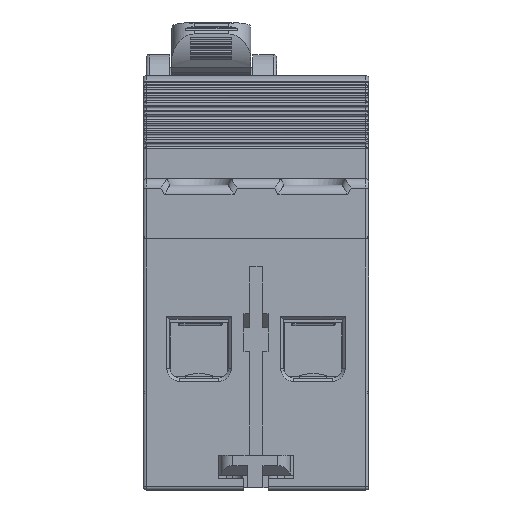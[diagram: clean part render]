
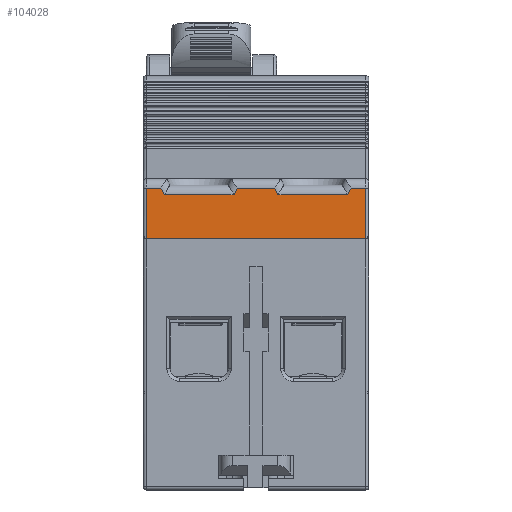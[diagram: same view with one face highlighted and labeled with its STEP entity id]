
A CAD part, front view. The second image highlights one B-rep face of the part: STEP entity #104028.
In plain terms, the highlighted planar face has unit normal (0, -1, 0) as drawn and (1, 0, 0) by its records, which use the part's own axes.
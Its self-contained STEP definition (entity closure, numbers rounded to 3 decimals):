
#470 = CARTESIAN_POINT ( 'NONE',  ( 418.449, 58.043, 21.624 ) ) ;
#856 = CARTESIAN_POINT ( 'NONE',  ( 418.449, 55.321, 5.225 ) ) ;
#1548 = ORIENTED_EDGE ( 'NONE', *, *, #52059, .F. ) ;
#1580 = CARTESIAN_POINT ( 'NONE',  ( 418.449, 76.542, 20.624 ) ) ;
#4399 = VERTEX_POINT ( 'NONE', #13987 ) ;
#4492 = VERTEX_POINT ( 'NONE', #99792 ) ;
#5277 = EDGE_CURVE ( 'NONE', #40165, #43157, #32171, .T. ) ;
#5475 = VECTOR ( 'NONE', #68914, 1000. ) ;
#7340 = CARTESIAN_POINT ( 'NONE',  ( 418.449, 70.097, 21.624 ) ) ;
#8014 = CARTESIAN_POINT ( 'NONE',  ( 418.449, 90.419, 13.624 ) ) ;
#9197 = VECTOR ( 'NONE', #91395, 1000. ) ;
#13014 = DIRECTION ( 'NONE',  ( 0., 0., -1. ) ) ;
#13358 = VECTOR ( 'NONE', #75000, 1000. ) ;
#13712 = VERTEX_POINT ( 'NONE', #92277 ) ;
#13756 = DIRECTION ( 'NONE',  ( 0., -0.447, -0.894 ) ) ;
#13987 = CARTESIAN_POINT ( 'NONE',  ( 418.449, 70.097, 21.624 ) ) ;
#14042 = CARTESIAN_POINT ( 'NONE',  ( 418.449, 76.542, 20.624 ) ) ;
#14465 = LINE ( 'NONE', #47627, #74496 ) ;
#16347 = ORIENTED_EDGE ( 'NONE', *, *, #16727, .T. ) ;
#16727 = EDGE_CURVE ( 'NONE', #4399, #92641, #92529, .T. ) ;
#17964 = CARTESIAN_POINT ( 'NONE',  ( 418.449, 69.597, 20.624 ) ) ;
#18110 = DIRECTION ( 'NONE',  ( 0., 1., 0. ) ) ;
#22083 = ORIENTED_EDGE ( 'NONE', *, *, #79684, .F. ) ;
#23057 = ORIENTED_EDGE ( 'NONE', *, *, #52709, .F. ) ;
#25624 = EDGE_CURVE ( 'NONE', #13712, #43157, #88222, .T. ) ;
#25826 = ORIENTED_EDGE ( 'NONE', *, *, #65518, .T. ) ;
#27358 = VECTOR ( 'NONE', #31262, 1000. ) ;
#27545 = CARTESIAN_POINT ( 'NONE',  ( 418.449, 76.042, 21.624 ) ) ;
#29999 = ORIENTED_EDGE ( 'NONE', *, *, #66821, .T. ) ;
#31262 = DIRECTION ( 'NONE',  ( 0., 1., 0. ) ) ;
#32171 = LINE ( 'NONE', #75077, #9197 ) ;
#32408 = DIRECTION ( 'NONE',  ( 1., 0., 0. ) ) ;
#36463 = VECTOR ( 'NONE', #13756, 1000. ) ;
#37187 = LINE ( 'NONE', #70340, #105805 ) ;
#37902 = VERTEX_POINT ( 'NONE', #96207 ) ;
#38266 = VERTEX_POINT ( 'NONE', #27545 ) ;
#38976 = ORIENTED_EDGE ( 'NONE', *, *, #106039, .T. ) ;
#40053 = FACE_OUTER_BOUND ( 'NONE', #44730, .T. ) ;
#40165 = VERTEX_POINT ( 'NONE', #14042 ) ;
#43157 = VERTEX_POINT ( 'NONE', #52292 ) ;
#43654 = CARTESIAN_POINT ( 'NONE',  ( 418.449, 55.721, 21.624 ) ) ;
#44730 = EDGE_LOOP ( 'NONE', ( #22083, #1548, #67756, #70677, #25826, #95897, #16347, #74427, #29999, #71450, #23057, #38976 ) ) ;
#47627 = CARTESIAN_POINT ( 'NONE',  ( 418.449, 55.721, 13.624 ) ) ;
#50555 = CARTESIAN_POINT ( 'NONE',  ( 418.449, 58.543, 20.624 ) ) ;
#52059 = EDGE_CURVE ( 'NONE', #13712, #58859, #61826, .T. ) ;
#52292 = CARTESIAN_POINT ( 'NONE',  ( 418.449, 87.596, 20.624 ) ) ;
#52709 = EDGE_CURVE ( 'NONE', #67296, #37902, #96982, .T. ) ;
#55024 = VERTEX_POINT ( 'NONE', #8014 ) ;
#55930 = LINE ( 'NONE', #89090, #75603 ) ;
#56280 = LINE ( 'NONE', #7340, #27358 ) ;
#57434 = VECTOR ( 'NONE', #89903, 1000. ) ;
#58475 = DIRECTION ( 'NONE',  ( 0., 1., 0. ) ) ;
#58859 = VERTEX_POINT ( 'NONE', #104898 ) ;
#60277 = LINE ( 'NONE', #1580, #70418 ) ;
#61826 = LINE ( 'NONE', #94984, #5475 ) ;
#64282 = CARTESIAN_POINT ( 'NONE',  ( 418.449, 88.096, 21.624 ) ) ;
#65518 = EDGE_CURVE ( 'NONE', #40165, #38266, #60277, .T. ) ;
#66821 = EDGE_CURVE ( 'NONE', #4492, #71849, #93463, .T. ) ;
#67296 = VERTEX_POINT ( 'NONE', #85713 ) ;
#67756 = ORIENTED_EDGE ( 'NONE', *, *, #25624, .T. ) ;
#68441 = DIRECTION ( 'NONE',  ( 0., -0.447, 0.894 ) ) ;
#68914 = DIRECTION ( 'NONE',  ( 0., 1., 0. ) ) ;
#69693 = EDGE_CURVE ( 'NONE', #4492, #92641, #37187, .T. ) ;
#70340 = CARTESIAN_POINT ( 'NONE',  ( 418.449, 58.543, 20.624 ) ) ;
#70418 = VECTOR ( 'NONE', #68441, 1000. ) ;
#70677 = ORIENTED_EDGE ( 'NONE', *, *, #5277, .F. ) ;
#71450 = ORIENTED_EDGE ( 'NONE', *, *, #104631, .F. ) ;
#71849 = VERTEX_POINT ( 'NONE', #470 ) ;
#71992 = VECTOR ( 'NONE', #99593, 1000. ) ;
#72574 = VECTOR ( 'NONE', #18110, 1000. ) ;
#74195 = AXIS2_PLACEMENT_3D ( 'NONE', #856, #32408, #58475 ) ;
#74427 = ORIENTED_EDGE ( 'NONE', *, *, #69693, .F. ) ;
#74496 = VECTOR ( 'NONE', #80767, 1000. ) ;
#75000 = DIRECTION ( 'NONE',  ( 0., -0.447, 0.894 ) ) ;
#75077 = CARTESIAN_POINT ( 'NONE',  ( 418.449, 76.542, 20.624 ) ) ;
#75603 = VECTOR ( 'NONE', #13014, 1000. ) ;
#79684 = EDGE_CURVE ( 'NONE', #58859, #55024, #55930, .T. ) ;
#80753 = EDGE_CURVE ( 'NONE', #4399, #38266, #56280, .T. ) ;
#80767 = DIRECTION ( 'NONE',  ( 0., 1., 0. ) ) ;
#85713 = CARTESIAN_POINT ( 'NONE',  ( 418.449, 55.721, 13.624 ) ) ;
#88222 = LINE ( 'NONE', #64282, #36463 ) ;
#89090 = CARTESIAN_POINT ( 'NONE',  ( 418.449, 90.419, 21.624 ) ) ;
#89903 = DIRECTION ( 'NONE',  ( 0., 0., 1. ) ) ;
#91395 = DIRECTION ( 'NONE',  ( 0., 1., 0. ) ) ;
#91986 = CARTESIAN_POINT ( 'NONE',  ( 418.449, 70.097, 21.624 ) ) ;
#92277 = CARTESIAN_POINT ( 'NONE',  ( 418.449, 88.096, 21.624 ) ) ;
#92529 = LINE ( 'NONE', #91986, #71992 ) ;
#92641 = VERTEX_POINT ( 'NONE', #17964 ) ;
#93463 = LINE ( 'NONE', #50555, #13358 ) ;
#94726 = LINE ( 'NONE', #43654, #72574 ) ;
#94984 = CARTESIAN_POINT ( 'NONE',  ( 418.449, 88.096, 21.624 ) ) ;
#95897 = ORIENTED_EDGE ( 'NONE', *, *, #80753, .F. ) ;
#96207 = CARTESIAN_POINT ( 'NONE',  ( 418.449, 55.721, 21.624 ) ) ;
#96982 = LINE ( 'NONE', #101636, #57434 ) ;
#99593 = DIRECTION ( 'NONE',  ( 0., -0.447, -0.894 ) ) ;
#99792 = CARTESIAN_POINT ( 'NONE',  ( 418.449, 58.543, 20.624 ) ) ;
#101636 = CARTESIAN_POINT ( 'NONE',  ( 418.449, 55.721, 13.624 ) ) ;
#103449 = DIRECTION ( 'NONE',  ( 0., 1., 0. ) ) ;
#104028 = ADVANCED_FACE ( 'NONE', ( #40053 ), #106321, .T. ) ;
#104631 = EDGE_CURVE ( 'NONE', #37902, #71849, #94726, .T. ) ;
#104898 = CARTESIAN_POINT ( 'NONE',  ( 418.449, 90.419, 21.624 ) ) ;
#105805 = VECTOR ( 'NONE', #103449, 1000. ) ;
#106039 = EDGE_CURVE ( 'NONE', #67296, #55024, #14465, .T. ) ;
#106321 = PLANE ( 'NONE',  #74195 ) ;
